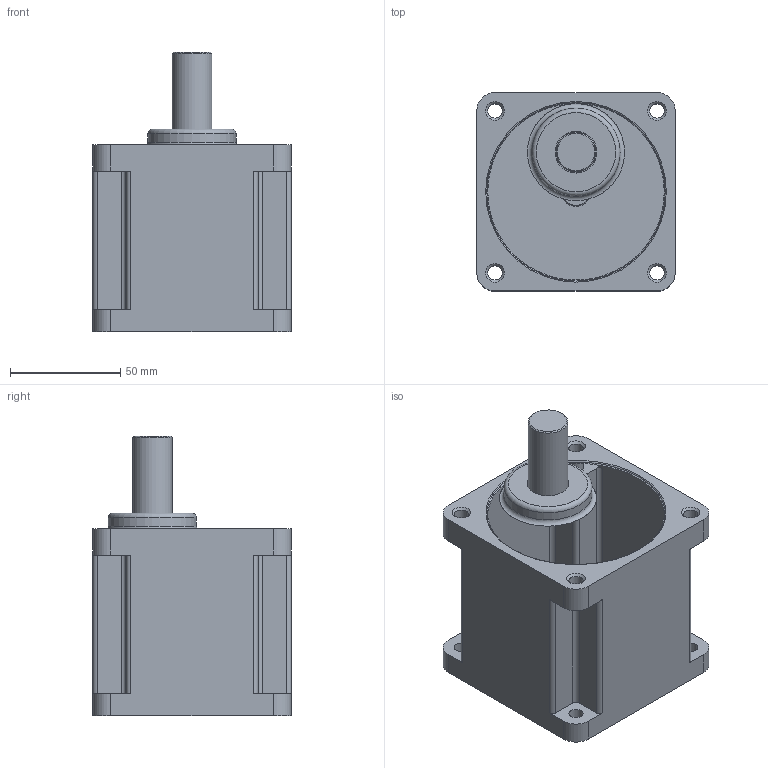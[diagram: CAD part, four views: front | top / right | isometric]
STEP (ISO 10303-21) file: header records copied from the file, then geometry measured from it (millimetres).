
FILE_DESCRIPTION((''),'2;1');
FILE_NAME('D:\미주향3D\GEAR HEAD\GEARHEAD\60W\S9SD3B~200B.stp','2013-12-13T12:09:23',('leebh'),(''),'Autodesk Inventor 2011','Autodesk Inventor 2011','');
FILE_SCHEMA(('AUTOMOTIVE_DESIGN { 1 0 10303 214 1 1 1 1 }'));
Length unit declared in the file: millimetre
Products named in the file (1): 부품1
Bounding box: 90 x 90 x 127 mm (x, y, z)
Volume: 620649.9 mm3; surface area: 53764.7 mm2
Topology: 1 solids, 1 shells, 72 faces, 184 edges, 119 vertices
Faces by surface type: cylinder 33, plane 28, cone 7, torus 4
Full cylindrical faces by diameter (mm): 6.5 x8, 12 x1, 18 x1, 19 x1, 40 x1, 83 x1
Entity records: 2118 total; most frequent: DIRECTION 382, CARTESIAN_POINT 348, ORIENTED_EDGE 316, EDGE_CURVE 158, AXIS2_PLACEMENT_3D 151, VERTEX_POINT 117, EDGE_LOOP 117, VECTOR 80
